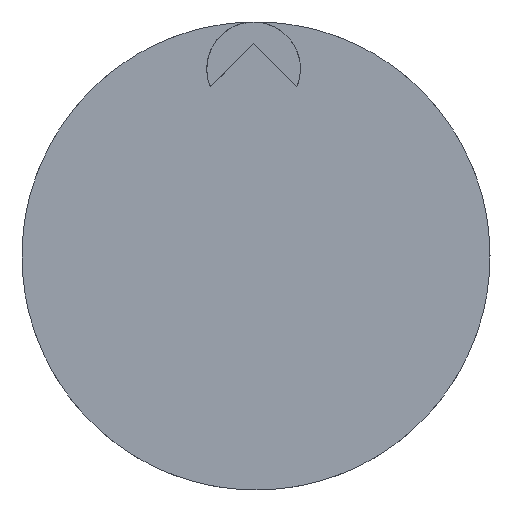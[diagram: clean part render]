
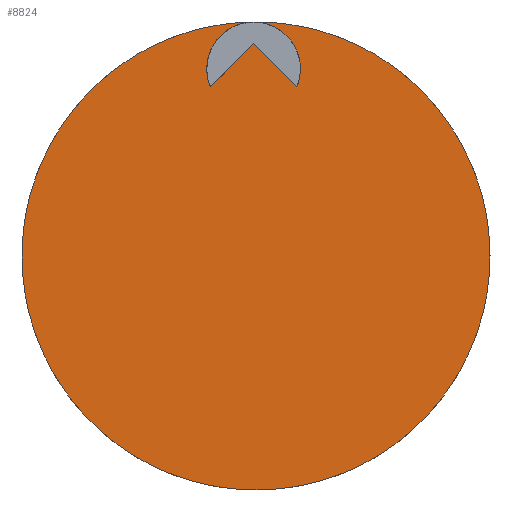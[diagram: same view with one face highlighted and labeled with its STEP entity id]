
A CAD part, top view. The second image highlights one B-rep face of the part: STEP entity #8824.
In plain terms, the highlighted planar face has unit normal (0, 0, 1).
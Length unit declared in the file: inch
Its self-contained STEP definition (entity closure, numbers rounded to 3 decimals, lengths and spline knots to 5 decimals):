
#21=CIRCLE('',#8984,0.48);
#23=CIRCLE('',#8990,0.5);
#24=CIRCLE('',#8992,2.5);
#134=FACE_BOUND('',#2669,.T.);
#613=LINE('',#30562,#1096);
#614=LINE('',#30565,#1097);
#1096=VECTOR('',#9765,0.3937);
#1097=VECTOR('',#9768,0.3937);
#2024=FACE_OUTER_BOUND('',#2668,.T.);
#2668=EDGE_LOOP('',(#8132));
#2669=EDGE_LOOP('',(#8133,#8134,#8135,#8136));
#4303=VERTEX_POINT('',#30550);
#4304=VERTEX_POINT('',#30552);
#4307=VERTEX_POINT('',#30560);
#4308=VERTEX_POINT('',#30564);
#4310=VERTEX_POINT('',#30574);
#5575=EDGE_CURVE('',#4304,#4303,#21,.T.);
#5580=EDGE_CURVE('',#4303,#4307,#613,.T.);
#5581=EDGE_CURVE('',#4308,#4304,#614,.T.);
#5585=EDGE_CURVE('',#4307,#4308,#23,.T.);
#5586=EDGE_CURVE('',#4310,#4310,#24,.T.);
#8132=ORIENTED_EDGE('',*,*,#5586,.T.);
#8133=ORIENTED_EDGE('',*,*,#5575,.T.);
#8134=ORIENTED_EDGE('',*,*,#5580,.T.);
#8135=ORIENTED_EDGE('',*,*,#5585,.T.);
#8136=ORIENTED_EDGE('',*,*,#5581,.T.);
#8289=PLANE('',#8991);
#8824=ADVANCED_FACE('',(#2024,#134),#8289,.T.);
#8984=AXIS2_PLACEMENT_3D('',#30553,#9757,#9758);
#8990=AXIS2_PLACEMENT_3D('',#30572,#9777,#9778);
#8991=AXIS2_PLACEMENT_3D('',#30573,#9779,#9780);
#8992=AXIS2_PLACEMENT_3D('',#30575,#9781,#9782);
#9757=DIRECTION('center_axis',(0.,0.,1.));
#9758=DIRECTION('ref_axis',(1.,0.,0.));
#9765=DIRECTION('',(-0.707,-0.707,0.));
#9768=DIRECTION('',(-0.707,0.707,0.));
#9777=DIRECTION('center_axis',(0.,0.,-1.));
#9778=DIRECTION('ref_axis',(1.,0.,0.));
#9779=DIRECTION('center_axis',(0.,0.,1.));
#9780=DIRECTION('ref_axis',(1.,0.,0.));
#9781=DIRECTION('center_axis',(0.,0.,1.));
#9782=DIRECTION('ref_axis',(1.,0.,0.));
#30550=CARTESIAN_POINT('',(-0.47212,1.82306,0.2));
#30552=CARTESIAN_POINT('',(0.42208,1.82519,0.2));
#30553=CARTESIAN_POINT('Origin',(-0.02544,1.99876,0.2));
#30560=CARTESIAN_POINT('',(-0.48749,1.80769,0.2));
#30562=CARTESIAN_POINT('',(-0.70951,1.58566,0.2));
#30564=CARTESIAN_POINT('',(0.43748,1.8098,0.2));
#30565=CARTESIAN_POINT('',(0.67359,1.57369,0.2));
#30572=CARTESIAN_POINT('Origin',(-0.02544,1.99876,0.2));
#30573=CARTESIAN_POINT('Origin',(0.,0.,0.2));
#30574=CARTESIAN_POINT('',(0.,-2.5,0.2));
#30575=CARTESIAN_POINT('Origin',(0.,0.,0.2));
